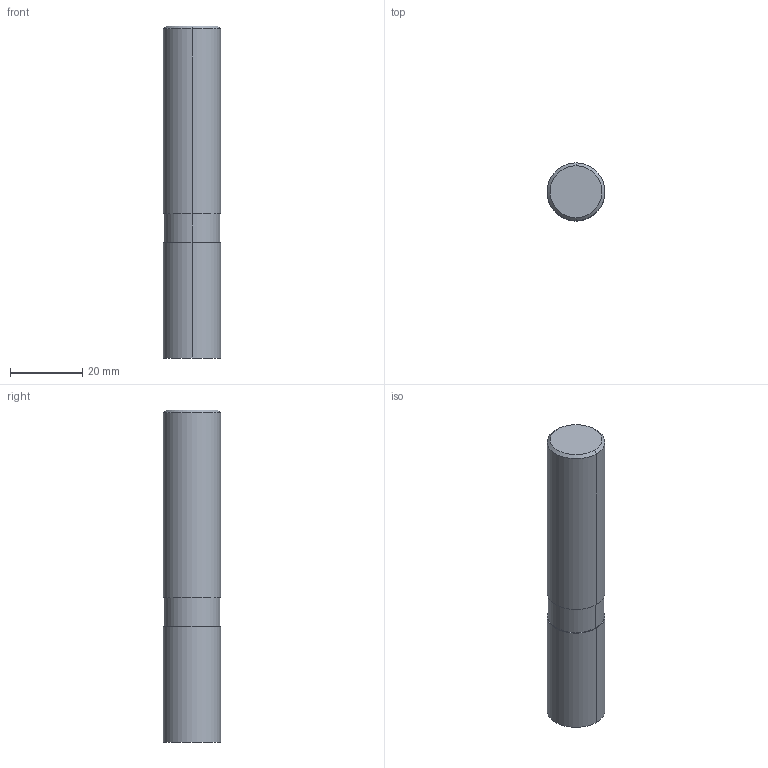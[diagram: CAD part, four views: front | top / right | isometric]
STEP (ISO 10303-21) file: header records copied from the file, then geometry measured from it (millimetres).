
FILE_DESCRIPTION((''),'2;1');
FILE_NAME('DIN4003_82_HEURO','2016-04-11T',('automc'),(''),'PRO/ENGINEER BY PARAMETRIC TECHNOLOGY CORPORATION, 2015280','PRO/ENGINEER BY PARAMETRIC TECHNOLOGY CORPORATION, 2015280','');
FILE_SCHEMA(('AUTOMOTIVE_DESIGN { 1 0 10303 214 1 1 1 1 }'));
Length unit declared in the file: millimetre
Products named in the file (1): DIN4003_82_HEURO
Bounding box: 16 x 16 x 92 mm (x, y, z)
Volume: 18383.3 mm3; surface area: 5014.4 mm2
Topology: 1 solids, 1 shells, 12 faces, 24 edges, 17 vertices
Faces by surface type: bspline 12
Entity records: 704 total; most frequent: CARTESIAN_POINT 219, DIRECTION 68, ORIENTED_EDGE 44, AXIS2_PLACEMENT_3D 26, PRESENTATION_STYLE_ASSIGNMENT 23, STYLED_ITEM 23, EDGE_CURVE 22, VECTOR 16
